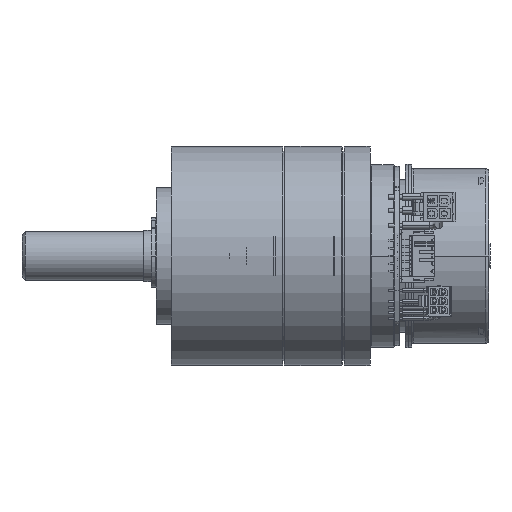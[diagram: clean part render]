
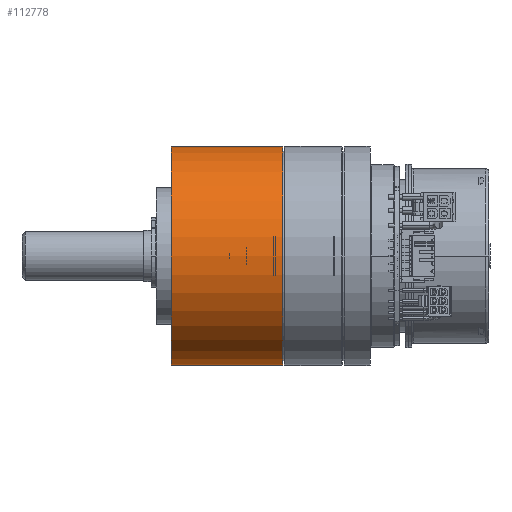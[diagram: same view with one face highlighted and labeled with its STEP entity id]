
A CAD part, front view. The second image highlights one B-rep face of the part: STEP entity #112778.
In plain terms, the highlighted cylindrical face has radius 36 mm (diameter 72 mm), a partial arc.
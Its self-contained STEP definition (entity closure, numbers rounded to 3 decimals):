
#2850 = ORIENTED_EDGE ( 'NONE', *, *, #3263, .T. ) ;
#3263 = EDGE_CURVE ( 'NONE', #70429, #39953, #85791, .T. ) ;
#9687 = DIRECTION ( 'NONE',  ( 1., 0., 0. ) ) ;
#12657 = CARTESIAN_POINT ( 'NONE',  ( -3., 0., -36. ) ) ;
#12789 = VERTEX_POINT ( 'NONE', #49884 ) ;
#14826 = VECTOR ( 'NONE', #44229, 1000. ) ;
#16702 = EDGE_CURVE ( 'NONE', #42118, #70429, #86358, .T. ) ;
#16802 = LINE ( 'NONE', #120623, #14826 ) ;
#27445 = CIRCLE ( 'NONE', #76997, 36. ) ;
#27742 = CARTESIAN_POINT ( 'NONE',  ( 33.6, 0., 36. ) ) ;
#29150 = DIRECTION ( 'NONE',  ( 1., 0., 0. ) ) ;
#30431 = ORIENTED_EDGE ( 'NONE', *, *, #48109, .T. ) ;
#35927 = CYLINDRICAL_SURFACE ( 'NONE', #87775, 36. ) ;
#39953 = VERTEX_POINT ( 'NONE', #27742 ) ;
#42118 = VERTEX_POINT ( 'NONE', #12657 ) ;
#44229 = DIRECTION ( 'NONE',  ( 1., 0., 0. ) ) ;
#45143 = CARTESIAN_POINT ( 'NONE',  ( 33.6, 0., 0. ) ) ;
#45518 = EDGE_LOOP ( 'NONE', ( #111503, #30431, #102255, #2850 ) ) ;
#47717 = DIRECTION ( 'NONE',  ( 0., 0., -1. ) ) ;
#48109 = EDGE_CURVE ( 'NONE', #12789, #42118, #27445, .T. ) ;
#49884 = CARTESIAN_POINT ( 'NONE',  ( -3., 0., 36. ) ) ;
#70429 = VERTEX_POINT ( 'NONE', #82177 ) ;
#73825 = CARTESIAN_POINT ( 'NONE',  ( -5.08, 0., 0. ) ) ;
#76997 = AXIS2_PLACEMENT_3D ( 'NONE', #104264, #9687, #86213 ) ;
#82177 = CARTESIAN_POINT ( 'NONE',  ( 33.6, 0., -36. ) ) ;
#85791 = CIRCLE ( 'NONE', #117466, 36. ) ;
#86213 = DIRECTION ( 'NONE',  ( 0., 0., -1. ) ) ;
#86358 = LINE ( 'NONE', #122389, #118433 ) ;
#87775 = AXIS2_PLACEMENT_3D ( 'NONE', #73825, #111784, #47717 ) ;
#88136 = EDGE_CURVE ( 'NONE', #12789, #39953, #16802, .T. ) ;
#91785 = DIRECTION ( 'NONE',  ( -1., 0., 0. ) ) ;
#92536 = FACE_OUTER_BOUND ( 'NONE', #45518, .T. ) ;
#102255 = ORIENTED_EDGE ( 'NONE', *, *, #16702, .T. ) ;
#104264 = CARTESIAN_POINT ( 'NONE',  ( -3., 0., 0. ) ) ;
#111503 = ORIENTED_EDGE ( 'NONE', *, *, #88136, .F. ) ;
#111784 = DIRECTION ( 'NONE',  ( 1., 0., 0. ) ) ;
#112778 = ADVANCED_FACE ( 'NONE', ( #92536 ), #35927, .T. ) ;
#117466 = AXIS2_PLACEMENT_3D ( 'NONE', #45143, #91785, #119056 ) ;
#118433 = VECTOR ( 'NONE', #29150, 1000. ) ;
#119056 = DIRECTION ( 'NONE',  ( 0., 0., -1. ) ) ;
#120623 = CARTESIAN_POINT ( 'NONE',  ( -5.08, 0., 36. ) ) ;
#122389 = CARTESIAN_POINT ( 'NONE',  ( -5.08, 0., -36. ) ) ;
